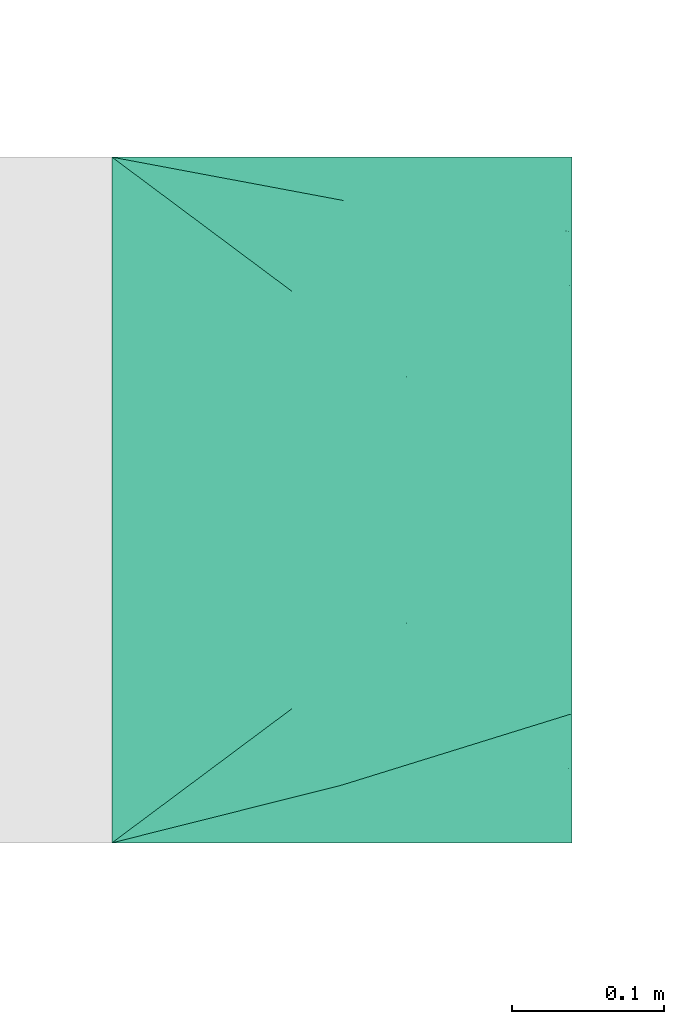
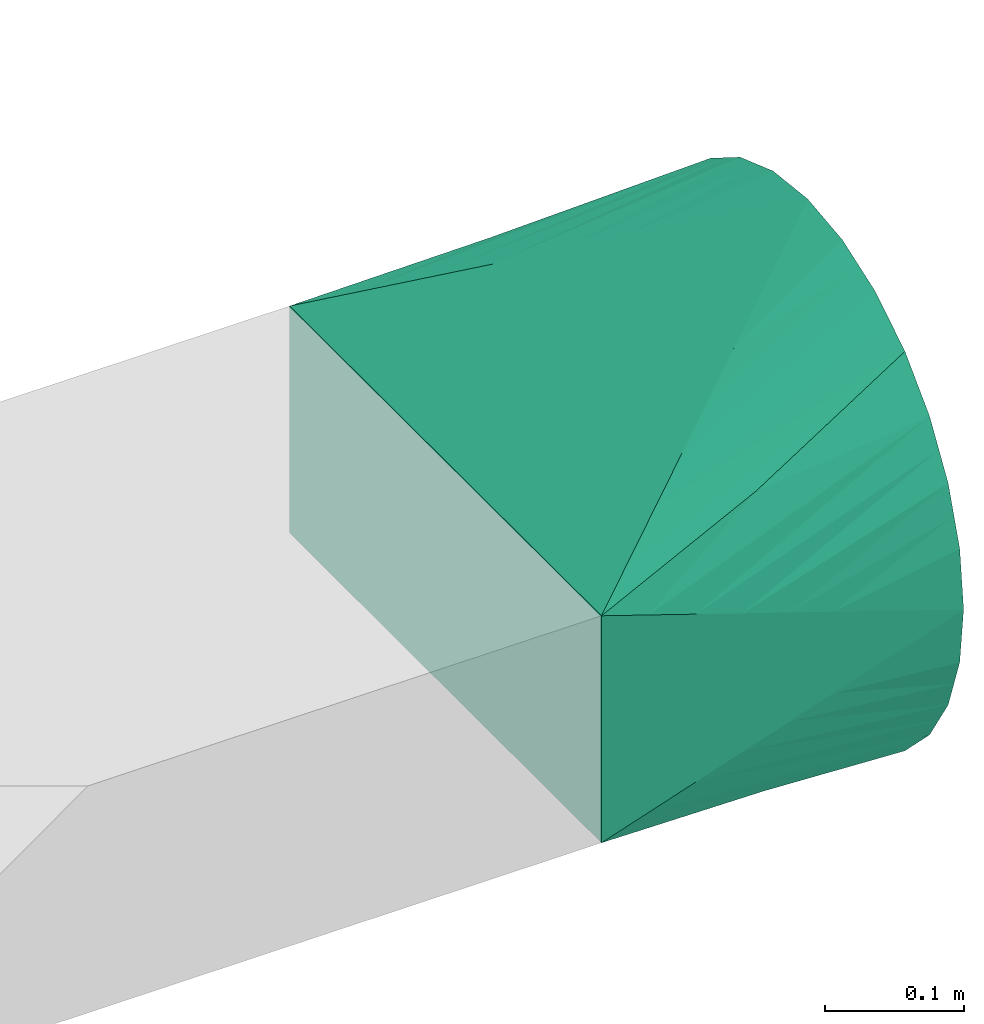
# One storey, part 18 of 22: 1 flow fitting.
"""IFC2X3 building model written with IfcOpenShell, lengths in millimetres."""

from ifc_helpers import new_model, entity, si_unit, converted_unit, derived_unit, direction, frame, origin, place, context, subcontext, project, spatial, faceted_brep, source, transform, mapped, material, type_object, type_shapes, element, save


model = new_model("IFC2X3")

# Units and contexts
model_context = context("Model", 3, precision=0.01, world=origin(), true_north=direction((6.123233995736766e-17, 1.0)))
body_context = subcontext(model_context, "Body", "Model", "MODEL_VIEW")
ifc_project = project(units=[si_unit("LENGTHUNIT", "METRE", prefix="MILLI"), converted_unit("PLANEANGLEUNIT", "DEGREE", entity("IfcPlaneAngleMeasure", 0.017453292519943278), si_unit("PLANEANGLEUNIT", "RADIAN"), dimensions=[0, 0, 0, 0, 0, 0, 0]), si_unit("AREAUNIT", "SQUARE_METRE"), derived_unit("THERMALTRANSMITTANCEUNIT", [(si_unit("MASSUNIT", "GRAM", prefix="KILO"), 1), (si_unit("THERMODYNAMICTEMPERATUREUNIT", "KELVIN"), -1), (si_unit("TIMEUNIT", "SECOND"), -3)])], contexts=[model_context])

# Site, building, storey
site_placement = place(None, origin())
site = spatial("IfcSite", under=ifc_project, at=site_placement, Name="Default", CompositionType="ELEMENT")
building_placement = place(site_placement, origin())
building = spatial("IfcBuilding", under=site, at=building_placement, Name="Praça Pedro II, 1301 - Centro (Sul), Teresina - PI, 64001-100", CompositionType="ELEMENT")
storey_placement = place(building_placement, frame((0.0, 0.0, 320.0)))
storey = spatial("IfcBuildingStorey", under=building, at=storey_placement, Name="TÉRREO +0.32m", CompositionType="ELEMENT", Elevation=319.99999999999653)

# Flow fitting
ifc_material = material(Name="<Unnamed>")
duct_fitting_type = type_object("IfcDuctFittingType", Name="M_Transição retangular para oval - Ângulo:45 Graus", PredefinedType="NOTDEFINED", material=ifc_material)
shared_shape = source(origin(), body_context, "Body", "Brep", [
    faceted_brep([(301.77669529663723, 50.067210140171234, 219.35878024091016), (301.77669529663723, 35.850594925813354, 220.96060807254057), (301.77669529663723, 21.63397971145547, 222.56243590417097), (301.77669529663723, 0.0, 225.0), (301.77669529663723, -21.633979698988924, 222.5624359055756), (301.77669529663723, -35.85059491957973, 220.960608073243), (301.77669529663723, -50.0672101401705, 219.35878024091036), (301.77669529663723, -73.84552572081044, 211.0383877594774), (301.77669529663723, -97.62384130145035, 202.7179952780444), (301.77669529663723, -118.95452335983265, 189.3150394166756), (301.77669529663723, -140.28520541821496, 175.9120835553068), (301.77669529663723, -158.0986444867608, 158.098644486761), (301.77669529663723, -175.91208355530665, 140.28520541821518), (301.77669529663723, -189.31503941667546, 118.95452335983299), (301.77669529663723, -202.7179952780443, 97.62384130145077), (301.77669529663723, -211.03838775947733, 73.84552572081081), (301.77669529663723, -219.35878024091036, 50.06721014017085), (301.77669529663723, -220.9606080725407, 35.850594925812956), (301.77669529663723, -222.56243590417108, 21.633979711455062), (301.77669529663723, -225.0, 0.0), (301.77669529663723, -222.5624359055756, -21.633979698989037), (301.77669529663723, -220.96060807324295, -35.85059491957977), (301.77669529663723, -219.35878024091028, -50.067210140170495), (301.77669529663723, -211.03838775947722, -73.84552572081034), (301.77669529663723, -202.71799527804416, -97.62384130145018), (301.77669529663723, -189.31503941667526, -118.95452335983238), (301.77669529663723, -175.91208355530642, -140.28520541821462), (301.77669529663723, -158.09864448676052, -158.09864448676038), (301.77669529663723, -140.28520541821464, -175.9120835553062), (301.77669529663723, -118.95452335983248, -189.31503941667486), (301.77669529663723, -97.6238413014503, -202.71799527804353), (301.77669529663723, -73.84552572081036, -211.0383877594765), (301.77669529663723, -50.06721014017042, -219.35878024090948), (301.77669529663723, -35.85059492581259, -220.96060807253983), (301.7766952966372, -21.633979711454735, -222.56243590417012), (301.77669529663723, 0.0, -225.0), (301.77669529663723, 21.63397969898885, -222.56243590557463), (301.77669529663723, 35.85059491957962, -220.96060807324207), (301.77669529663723, 50.067210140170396, -219.35878024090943), (301.77669529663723, 73.84552572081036, -211.03838775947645), (301.77669529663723, 97.62384130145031, -202.71799527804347), (301.77669529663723, 118.95452335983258, -189.3150394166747), (301.77669529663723, 140.28520541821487, -175.9120835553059), (301.77669529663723, 158.09864448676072, -158.0986444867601), (301.77669529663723, 175.9120835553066, -140.28520541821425), (301.77669529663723, 189.3150394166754, -118.954523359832), (301.77669529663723, 202.7179952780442, -97.62384130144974), (301.77669529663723, 211.03838775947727, -73.84552572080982), (301.77669529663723, 219.35878024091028, -50.067210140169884), (301.77669529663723, 220.96060807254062, -35.85059492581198), (301.77669529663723, 222.562435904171, -21.633979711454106), (301.77669529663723, 225.0, 0.0), (301.77669529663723, 222.56243590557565, 21.633979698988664), (301.77669529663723, 220.96060807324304, 35.850594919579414), (301.77669529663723, 219.35878024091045, 50.06721014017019), (301.77669529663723, 211.0383877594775, 73.84552572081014), (301.77669529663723, 202.71799527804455, 97.6238413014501), (301.77669529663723, 189.3150394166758, 118.95452335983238), (301.77669529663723, 175.91208355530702, 140.28520541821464), (301.77669529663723, 158.09864448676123, 158.09864448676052), (301.77669529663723, 140.28520541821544, 175.9120835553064), (301.77669529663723, 118.9545233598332, 189.31503941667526), (301.77669529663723, 97.62384130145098, 202.71799527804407), (301.77669529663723, 73.84552572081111, 211.03838775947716), (0.0, -225.0, 100.0), (0.0, 225.0, 100.0), (0.0, 225.0, -100.0), (0.0, -225.0, -100.0), (193.26634750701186, -225.0, 35.95716616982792), (157.09623157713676, -225.0, 47.94288822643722), (117.82217726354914, -137.15362121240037, 148.8035437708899), (78.54811817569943, -166.4357474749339, 132.53569584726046), (229.43646343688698, -225.0, 23.971444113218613), (247.52152140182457, -225.0, 17.978583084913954), (265.60657936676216, -225.0, 11.985722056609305), (193.26635108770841, -80.90362121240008, 180.05354377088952), (247.52152319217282, -40.451810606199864, 202.52677188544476), (229.436465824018, -53.93574747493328, 195.03569584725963), (265.60658056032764, -26.967873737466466, 210.01784792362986), (39.27405789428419, -225.0, 86.9857220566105), (150.88834613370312, -187.08888195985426, 134.21845811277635), (39.274059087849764, -195.7178737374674, 116.26784792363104), (78.54811578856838, -225.0, 73.9714441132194), (157.09623635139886, -107.87149494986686, 165.07139169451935), (117.82217368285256, -225.0, 60.957166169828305), (39.27405908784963, -225.0, -86.98572166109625), (78.5481181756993, -225.0, -73.97144332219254), (117.8221772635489, -225.0, -60.95716498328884), (157.09623635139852, -225.0, -47.94288664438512), (193.26635108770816, -225.0, -35.95716498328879), (229.43646582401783, -225.0, -23.971443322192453), (247.52152319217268, -225.0, -17.978582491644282), (265.60658056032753, -225.0, -11.98572166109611), (193.26634750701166, -80.90362388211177, -180.05354228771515), (157.09623157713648, -107.87149850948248, -165.07138971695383), (229.43646343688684, -53.93574925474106, -195.03569485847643), (247.5215214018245, -40.45181194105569, -202.5267711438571), (265.60657936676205, -26.967874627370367, -210.01784742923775), (39.27405789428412, -195.71787462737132, -116.26784742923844), (150.88834613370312, -196.71845874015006, -124.58888133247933), (78.54811578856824, -166.43574925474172, -132.5356948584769), (117.82217368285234, -137.15362388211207, -148.80354228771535), (39.274059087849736, 195.71787373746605, -116.2678479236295), (78.54811817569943, 166.43574747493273, -132.535695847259), (117.82217726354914, 137.15362121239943, -148.80354377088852), (157.0962363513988, 107.87149494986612, -165.071391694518), (193.26635108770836, 80.9036212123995, -180.0535437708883), (229.436465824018, 53.93574747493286, -195.03569584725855), (247.5215231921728, 40.451810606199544, -202.52677188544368), (265.60658056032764, 26.967873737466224, -210.01784792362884), (193.26634750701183, 225.0, -35.95716616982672), (157.09623157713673, 225.0, -47.94288822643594), (229.43646343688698, 225.0, -23.97144411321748), (247.52152140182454, 225.0, -17.978583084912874), (265.60657936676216, 225.0, -11.985722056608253), (39.274057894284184, 225.0, -86.98572205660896), (150.88834613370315, 187.08888195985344, -134.21845811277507), (78.54811578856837, 225.0, -73.97144411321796), (117.82217368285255, 225.0, -60.95716616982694), (39.2740590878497, 225.0, 86.9857216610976), (78.5481181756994, 225.0, 73.97144332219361), (117.82217726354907, 225.0, 60.95716498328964), (157.09623635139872, 225.0, 47.94288664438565), (193.26635108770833, 225.0, 35.957164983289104), (229.43646582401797, 225.0, 23.971443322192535), (247.52152319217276, 225.0, 17.978582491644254), (265.6065805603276, 225.0, 11.98572166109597), (193.2663475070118, 80.90362388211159, 180.0535422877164), (157.09623157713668, 107.87149850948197, 165.07138971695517), (229.43646343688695, 53.935749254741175, 195.0356948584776), (247.52152140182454, 40.45181194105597, 202.5267711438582), (265.6065793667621, 26.967874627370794, 210.0178474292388), (39.27405789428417, 195.71787462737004, 116.26784742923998), (150.88834613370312, 196.71845874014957, 124.58888133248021), (78.54811578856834, 166.43574925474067, 132.53569485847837), (117.8221736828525, 137.15362388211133, 148.8035422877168)], [[[0, 1, 2, 3, 4, 5, 6, 7, 8, 9, 10, 11, 12, 13, 14, 15, 16, 17, 18, 19, 20, 21, 22, 23, 24, 25, 26, 27, 28, 29, 30, 31, 32, 33, 34, 35, 36, 37, 38, 39, 40, 41, 42, 43, 44, 45, 46, 47, 48, 49, 50, 51, 52, 53, 54, 55, 56, 57, 58, 59, 60, 61, 62, 63]], [[64, 65, 66, 67]], [[68, 15, 69]], [[9, 70, 71]], [[16, 68, 72, 73, 74, 19, 18, 17]], [[6, 75, 7]], [[76, 77, 75, 6, 5, 4, 3, 78]], [[79, 12, 80]], [[80, 12, 11, 10]], [[10, 71, 81]], [[79, 82, 12]], [[8, 70, 9]], [[69, 15, 14]], [[83, 8, 7]], [[83, 7, 75]], [[68, 16, 15]], [[8, 83, 70]], [[84, 13, 82]], [[84, 69, 14]], [[64, 80, 81]], [[81, 80, 10]], [[79, 80, 64]], [[71, 10, 9]], [[13, 84, 14]], [[13, 12, 82]], [[74, 73, 72, 68, 69, 84, 82, 79, 64, 67, 85, 86, 87, 88, 89, 90, 91, 92, 19]], [[93, 31, 94]], [[25, 87, 86]], [[32, 93, 95, 96, 97, 35, 34, 33]], [[22, 89, 23]], [[91, 90, 89, 22, 21, 20, 19, 92]], [[98, 28, 99]], [[99, 28, 27, 26]], [[26, 86, 85]], [[98, 100, 28]], [[24, 87, 25]], [[94, 31, 30]], [[88, 24, 23]], [[88, 23, 89]], [[93, 32, 31]], [[24, 88, 87]], [[101, 29, 100]], [[101, 94, 30]], [[67, 99, 85]], [[85, 99, 26]], [[98, 99, 67]], [[86, 26, 25]], [[29, 101, 30]], [[29, 28, 100]], [[97, 96, 95, 93, 94, 101, 100, 98, 67, 66, 102, 103, 104, 105, 106, 107, 108, 109, 35]], [[110, 47, 111]], [[41, 104, 103]], [[48, 110, 112, 113, 114, 51, 50, 49]], [[38, 106, 39]], [[108, 107, 106, 38, 37, 36, 35, 109]], [[115, 44, 116]], [[116, 44, 43, 42]], [[42, 103, 102]], [[115, 117, 44]], [[40, 104, 41]], [[111, 47, 46]], [[105, 40, 39]], [[105, 39, 106]], [[110, 48, 47]], [[40, 105, 104]], [[118, 45, 117]], [[118, 111, 46]], [[66, 116, 102]], [[102, 116, 42]], [[115, 116, 66]], [[103, 42, 41]], [[45, 118, 46]], [[45, 44, 117]], [[66, 65, 119, 120, 121, 122, 123, 124, 125, 126, 51, 114, 113, 112, 110, 111, 118, 117, 115]], [[127, 63, 128]], [[57, 121, 120]], [[0, 127, 129, 130, 131, 3, 2, 1]], [[54, 123, 55]], [[125, 124, 123, 54, 53, 52, 51, 126]], [[132, 60, 133]], [[133, 60, 59, 58]], [[58, 120, 119]], [[132, 134, 60]], [[56, 121, 57]], [[128, 63, 62]], [[122, 56, 55]], [[122, 55, 123]], [[127, 0, 63]], [[56, 122, 121]], [[135, 61, 134]], [[135, 128, 62]], [[65, 133, 119]], [[119, 133, 58]], [[132, 133, 65]], [[120, 58, 57]], [[61, 135, 62]], [[61, 60, 134]], [[65, 64, 81, 71, 70, 83, 75, 77, 76, 78, 3, 131, 130, 129, 127, 128, 135, 134, 132]]]),
])
type_shapes(duct_fitting_type, [shared_shape])
flow_fitting_placement = place(storey_placement, frame((37852.36348116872, -70691.28932437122, 9587.0)))
element("IfcFlowFitting", 1, at=flow_fitting_placement, inside=storey, type_object=duct_fitting_type, material=ifc_material, Name="M_Transição retangular para oval - Ângulo:45 Graus", ObjectType="M_Transição retangular para oval - Ângulo:45 Graus", context=body_context, shape_type="MappedRepresentation", body=[
    mapped(shared_shape, transform((0.0, 0.0, 0.0), scale=1.0)),
])

save(model, "model.ifc")
